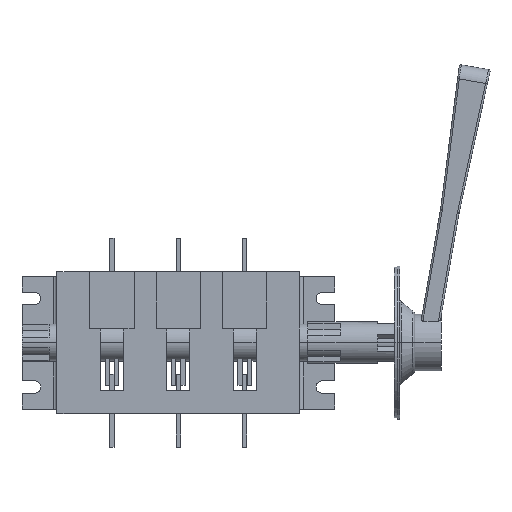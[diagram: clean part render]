
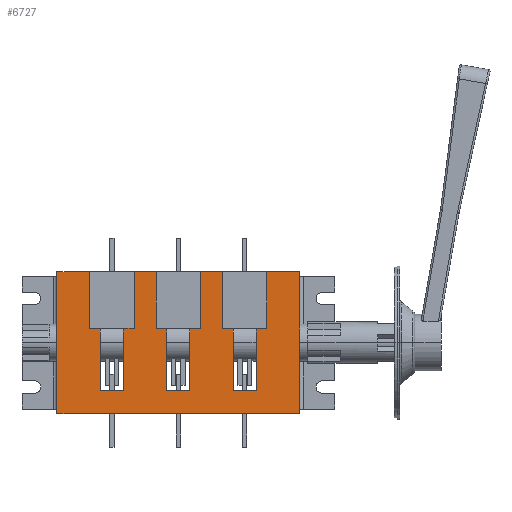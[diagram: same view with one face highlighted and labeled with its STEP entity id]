
A CAD part, top view. The second image highlights one B-rep face of the part: STEP entity #6727.
In plain terms, the highlighted planar face has unit normal (0, 0, 1).
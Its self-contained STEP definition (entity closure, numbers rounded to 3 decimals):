
#26 = ORIENTED_EDGE ( 'NONE', *, *, #1585, .F. ) ;
#118 = VERTEX_POINT ( 'NONE', #1053 ) ;
#128 = VECTOR ( 'NONE', #5427, 1000. ) ;
#265 = DIRECTION ( 'NONE',  ( 1., 0., 0. ) ) ;
#334 = EDGE_CURVE ( 'NONE', #118, #3250, #3428, .T. ) ;
#415 = CARTESIAN_POINT ( 'NONE',  ( -44., -67., 0. ) ) ;
#438 = VERTEX_POINT ( 'NONE', #3275 ) ;
#473 = VECTOR ( 'NONE', #6386, 1000. ) ;
#507 = ORIENTED_EDGE ( 'NONE', *, *, #4699, .F. ) ;
#542 = ORIENTED_EDGE ( 'NONE', *, *, #875, .F. ) ;
#622 = DIRECTION ( 'NONE',  ( 0., 1., 0. ) ) ;
#626 = CARTESIAN_POINT ( 'NONE',  ( 44., -67., 0. ) ) ;
#875 = EDGE_CURVE ( 'NONE', #1767, #3340, #11007, .T. ) ;
#956 = ORIENTED_EDGE ( 'NONE', *, *, #4981, .F. ) ;
#994 = EDGE_CURVE ( 'NONE', #1279, #10290, #2128, .T. ) ;
#1029 = VECTOR ( 'NONE', #2373, 1000. ) ;
#1053 = CARTESIAN_POINT ( 'NONE',  ( 6.5, -67., 0. ) ) ;
#1158 = CARTESIAN_POINT ( 'NONE',  ( -44., -67., 0. ) ) ;
#1279 = VERTEX_POINT ( 'NONE', #9032 ) ;
#1340 = VECTOR ( 'NONE', #5140, 1000. ) ;
#1380 = CARTESIAN_POINT ( 'NONE',  ( 44., -67., 0. ) ) ;
#1389 = ORIENTED_EDGE ( 'NONE', *, *, #7473, .F. ) ;
#1523 = CARTESIAN_POINT ( 'NONE',  ( -6.5, -67., 0. ) ) ;
#1542 = ORIENTED_EDGE ( 'NONE', *, *, #10607, .F. ) ;
#1585 = EDGE_CURVE ( 'NONE', #3541, #5970, #2826, .T. ) ;
#1600 = FACE_BOUND ( 'NONE', #8160, .T. ) ;
#1717 = DIRECTION ( 'NONE',  ( 0., 1., 0. ) ) ;
#1767 = VERTEX_POINT ( 'NONE', #2900 ) ;
#1797 = LINE ( 'NONE', #6046, #7016 ) ;
#2128 = LINE ( 'NONE', #6975, #6774 ) ;
#2132 = VECTOR ( 'NONE', #7200, 1000. ) ;
#2217 = EDGE_CURVE ( 'NONE', #5913, #438, #7825, .T. ) ;
#2278 = CARTESIAN_POINT ( 'NONE',  ( -68.5, 0., 0. ) ) ;
#2373 = DIRECTION ( 'NONE',  ( 0., -1., 0. ) ) ;
#2552 = DIRECTION ( 'NONE',  ( 1., 0., 0. ) ) ;
#2603 = EDGE_LOOP ( 'NONE', ( #10218, #4100, #10698, #507 ) ) ;
#2604 = DIRECTION ( 'NONE',  ( 0., -1., 0. ) ) ;
#2677 = VERTEX_POINT ( 'NONE', #10454 ) ;
#2819 = CARTESIAN_POINT ( 'NONE',  ( -68.5, 0., 0. ) ) ;
#2826 = LINE ( 'NONE', #8980, #473 ) ;
#2900 = CARTESIAN_POINT ( 'NONE',  ( -6.5, -13., 0. ) ) ;
#2976 = PLANE ( 'NONE',  #3460 ) ;
#3250 = VERTEX_POINT ( 'NONE', #4983 ) ;
#3275 = CARTESIAN_POINT ( 'NONE',  ( -68.5, -80., 0. ) ) ;
#3286 = FACE_BOUND ( 'NONE', #2603, .T. ) ;
#3340 = VERTEX_POINT ( 'NONE', #7770 ) ;
#3428 = LINE ( 'NONE', #4785, #8917 ) ;
#3460 = AXIS2_PLACEMENT_3D ( 'NONE', #3901, #5633, #10184 ) ;
#3473 = VECTOR ( 'NONE', #622, 1000. ) ;
#3541 = VERTEX_POINT ( 'NONE', #3829 ) ;
#3707 = VECTOR ( 'NONE', #4815, 1000. ) ;
#3765 = ORIENTED_EDGE ( 'NONE', *, *, #9789, .T. ) ;
#3829 = CARTESIAN_POINT ( 'NONE',  ( -31., -67., 0. ) ) ;
#3901 = CARTESIAN_POINT ( 'NONE',  ( 0., 0., 0. ) ) ;
#3947 = ORIENTED_EDGE ( 'NONE', *, *, #334, .F. ) ;
#4100 = ORIENTED_EDGE ( 'NONE', *, *, #6707, .F. ) ;
#4132 = CARTESIAN_POINT ( 'NONE',  ( 31., -67., 0. ) ) ;
#4194 = LINE ( 'NONE', #415, #10929 ) ;
#4251 = DIRECTION ( 'NONE',  ( 0., -1., 0. ) ) ;
#4360 = ORIENTED_EDGE ( 'NONE', *, *, #994, .F. ) ;
#4379 = EDGE_CURVE ( 'NONE', #7068, #7713, #1797, .T. ) ;
#4413 = DIRECTION ( 'NONE',  ( -1., 0., 0. ) ) ;
#4699 = EDGE_CURVE ( 'NONE', #7713, #8526, #6034, .T. ) ;
#4785 = CARTESIAN_POINT ( 'NONE',  ( 6.5, -67., 0. ) ) ;
#4815 = DIRECTION ( 'NONE',  ( -1., 0., 0. ) ) ;
#4871 = EDGE_CURVE ( 'NONE', #438, #9095, #9829, .T. ) ;
#4899 = DIRECTION ( 'NONE',  ( 0., 1., 0. ) ) ;
#4981 = EDGE_CURVE ( 'NONE', #10290, #3541, #4194, .T. ) ;
#4983 = CARTESIAN_POINT ( 'NONE',  ( 6.5, -13., 0. ) ) ;
#5140 = DIRECTION ( 'NONE',  ( -1., 0., 0. ) ) ;
#5166 = VECTOR ( 'NONE', #5251, 1000. ) ;
#5248 = CARTESIAN_POINT ( 'NONE',  ( 31., -67., 0. ) ) ;
#5251 = DIRECTION ( 'NONE',  ( 0., -1., 0. ) ) ;
#5279 = VECTOR ( 'NONE', #4413, 1000. ) ;
#5427 = DIRECTION ( 'NONE',  ( 1., 0., 0. ) ) ;
#5633 = DIRECTION ( 'NONE',  ( 0., 0., 1. ) ) ;
#5666 = VECTOR ( 'NONE', #265, 1000. ) ;
#5778 = DIRECTION ( 'NONE',  ( 1., 0., 0. ) ) ;
#5882 = ORIENTED_EDGE ( 'NONE', *, *, #4871, .T. ) ;
#5913 = VERTEX_POINT ( 'NONE', #2819 ) ;
#5970 = VERTEX_POINT ( 'NONE', #6121 ) ;
#6034 = LINE ( 'NONE', #5248, #7852 ) ;
#6046 = CARTESIAN_POINT ( 'NONE',  ( 31., -67., 0. ) ) ;
#6121 = CARTESIAN_POINT ( 'NONE',  ( -31., -13., 0. ) ) ;
#6386 = DIRECTION ( 'NONE',  ( 0., 1., 0. ) ) ;
#6464 = CARTESIAN_POINT ( 'NONE',  ( 68.5, -80., 0. ) ) ;
#6707 = EDGE_CURVE ( 'NONE', #2677, #7068, #9332, .T. ) ;
#6727 = ADVANCED_FACE ( 'NONE', ( #3286, #1600, #8336, #10881 ), #2976, .T. ) ;
#6774 = VECTOR ( 'NONE', #4251, 1000. ) ;
#6787 = LINE ( 'NONE', #9204, #5666 ) ;
#6793 = EDGE_CURVE ( 'NONE', #3340, #118, #6787, .T. ) ;
#6975 = CARTESIAN_POINT ( 'NONE',  ( -44., -67., 0. ) ) ;
#7016 = VECTOR ( 'NONE', #2604, 1000. ) ;
#7068 = VERTEX_POINT ( 'NONE', #10697 ) ;
#7200 = DIRECTION ( 'NONE',  ( -1., 0., 0. ) ) ;
#7473 = EDGE_CURVE ( 'NONE', #3250, #1767, #9036, .T. ) ;
#7665 = LINE ( 'NONE', #8846, #5279 ) ;
#7713 = VERTEX_POINT ( 'NONE', #4132 ) ;
#7770 = CARTESIAN_POINT ( 'NONE',  ( -6.5, -67., 0. ) ) ;
#7825 = LINE ( 'NONE', #2278, #5166 ) ;
#7839 = CARTESIAN_POINT ( 'NONE',  ( 68.5, 0., 0. ) ) ;
#7852 = VECTOR ( 'NONE', #2552, 1000. ) ;
#8034 = EDGE_CURVE ( 'NONE', #9095, #9930, #10508, .T. ) ;
#8160 = EDGE_LOOP ( 'NONE', ( #4360, #1542, #26, #956 ) ) ;
#8245 = LINE ( 'NONE', #1380, #3473 ) ;
#8336 = FACE_BOUND ( 'NONE', #11106, .T. ) ;
#8526 = VERTEX_POINT ( 'NONE', #626 ) ;
#8846 = CARTESIAN_POINT ( 'NONE',  ( -44., -13., 0. ) ) ;
#8917 = VECTOR ( 'NONE', #4899, 1000. ) ;
#8980 = CARTESIAN_POINT ( 'NONE',  ( -31., -67., 0. ) ) ;
#9032 = CARTESIAN_POINT ( 'NONE',  ( -44., -13., 0. ) ) ;
#9036 = LINE ( 'NONE', #9126, #2132 ) ;
#9095 = VERTEX_POINT ( 'NONE', #6464 ) ;
#9126 = CARTESIAN_POINT ( 'NONE',  ( -6.5, -13., 0. ) ) ;
#9204 = CARTESIAN_POINT ( 'NONE',  ( -6.5, -67., 0. ) ) ;
#9309 = EDGE_CURVE ( 'NONE', #8526, #2677, #8245, .T. ) ;
#9332 = LINE ( 'NONE', #10975, #3707 ) ;
#9531 = ORIENTED_EDGE ( 'NONE', *, *, #8034, .T. ) ;
#9789 = EDGE_CURVE ( 'NONE', #9930, #5913, #11482, .T. ) ;
#9829 = LINE ( 'NONE', #10812, #128 ) ;
#9930 = VERTEX_POINT ( 'NONE', #7839 ) ;
#10184 = DIRECTION ( 'NONE',  ( 1., 0., 0. ) ) ;
#10218 = ORIENTED_EDGE ( 'NONE', *, *, #4379, .F. ) ;
#10290 = VERTEX_POINT ( 'NONE', #1158 ) ;
#10454 = CARTESIAN_POINT ( 'NONE',  ( 44., -13., 0. ) ) ;
#10508 = LINE ( 'NONE', #10569, #11201 ) ;
#10569 = CARTESIAN_POINT ( 'NONE',  ( 68.5, 0., 0. ) ) ;
#10607 = EDGE_CURVE ( 'NONE', #5970, #1279, #7665, .T. ) ;
#10697 = CARTESIAN_POINT ( 'NONE',  ( 31., -13., 0. ) ) ;
#10698 = ORIENTED_EDGE ( 'NONE', *, *, #9309, .F. ) ;
#10812 = CARTESIAN_POINT ( 'NONE',  ( -68.5, -80., 0. ) ) ;
#10881 = FACE_OUTER_BOUND ( 'NONE', #11653, .T. ) ;
#10929 = VECTOR ( 'NONE', #5778, 1000. ) ;
#10975 = CARTESIAN_POINT ( 'NONE',  ( 31., -13., 0. ) ) ;
#11007 = LINE ( 'NONE', #1523, #1029 ) ;
#11106 = EDGE_LOOP ( 'NONE', ( #542, #1389, #3947, #11540 ) ) ;
#11160 = ORIENTED_EDGE ( 'NONE', *, *, #2217, .T. ) ;
#11201 = VECTOR ( 'NONE', #1717, 1000. ) ;
#11383 = CARTESIAN_POINT ( 'NONE',  ( -68.5, 0., 0. ) ) ;
#11482 = LINE ( 'NONE', #11383, #1340 ) ;
#11540 = ORIENTED_EDGE ( 'NONE', *, *, #6793, .F. ) ;
#11653 = EDGE_LOOP ( 'NONE', ( #11160, #5882, #9531, #3765 ) ) ;
